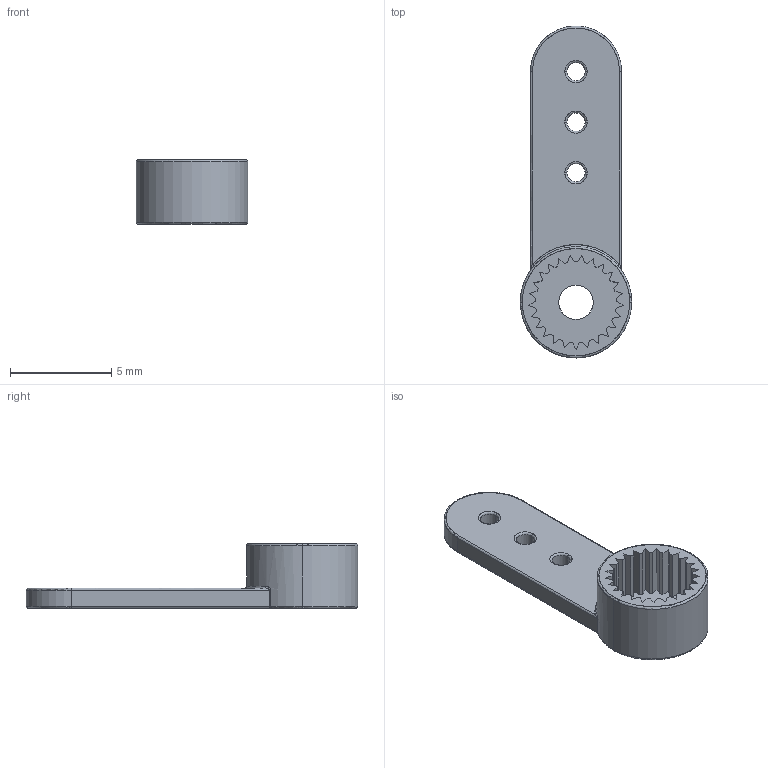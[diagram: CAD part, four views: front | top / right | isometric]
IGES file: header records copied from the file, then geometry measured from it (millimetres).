
Start section: SolidWorks IGES file using analytic representation for surfaces
Global section: file name: C:\Users\Alexandre\Dropbox\Etudes\Solidworks\Servo Mounts\Micro sized Servo Mount - x4_Simple.igs; native system: SolidWorks 2015; preprocessor: SolidWorks 2015; author: Alexandre; date: 150906.122313; units: millimetre
Bounding box: 5.5 x 16.4 x 3.2 mm (x, y, z)
Surface area: 279.5 mm2 (no closed solid volume)
Topology: 0 solids, 0 shells, 127 faces, 952 edges, 952 vertices
Faces by surface type: bspline 83, revolution 44
